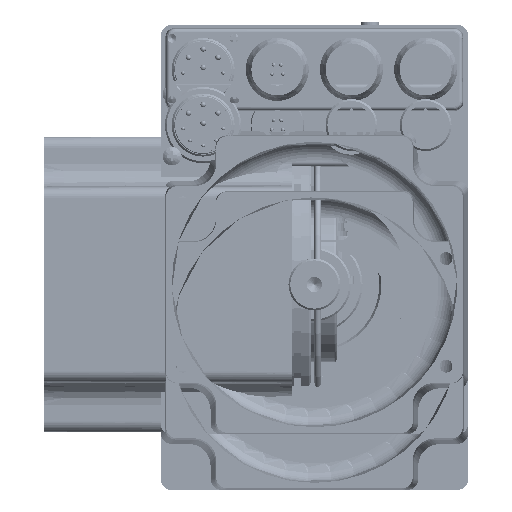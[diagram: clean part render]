
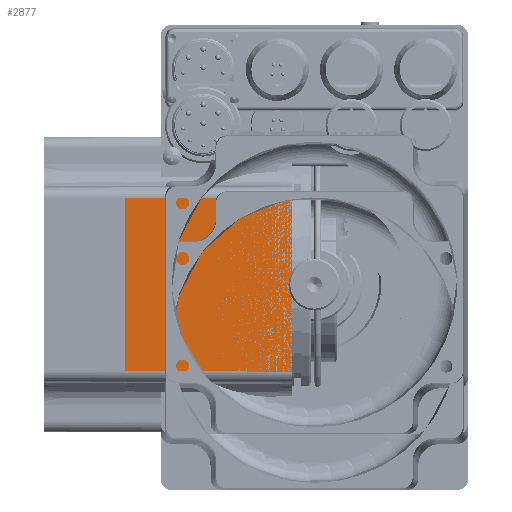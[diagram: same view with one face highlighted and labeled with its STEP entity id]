
A CAD part, front view. The second image highlights one B-rep face of the part: STEP entity #2877.
In plain terms, the highlighted planar face has unit normal (-0.003, -1, 0).
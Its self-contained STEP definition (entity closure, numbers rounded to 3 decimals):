
#2877 = ADVANCED_FACE( '', ( #7269 ), #7270, .T. );
#7269 = FACE_OUTER_BOUND( '', #16677, .T. );
#7270 = PLANE( '', #16678 );
#16677 = EDGE_LOOP( '', ( #31626, #31627, #31628, #31629 ) );
#16678 = AXIS2_PLACEMENT_3D( '', #31630, #31631, #31632 );
#31626 = ORIENTED_EDGE( '', *, *, #42393, .T. );
#31627 = ORIENTED_EDGE( '', *, *, #42394, .T. );
#31628 = ORIENTED_EDGE( '', *, *, #42218, .T. );
#31629 = ORIENTED_EDGE( '', *, *, #41488, .T. );
#31630 = CARTESIAN_POINT( '', ( -5., -40., 0. ) );
#31631 = DIRECTION( '', ( -0.003, -1., 0. ) );
#31632 = DIRECTION( '', ( 1., -0.003, 0. ) );
#41488 = EDGE_CURVE( '', #47138, #47136, #47139, .T. );
#42218 = EDGE_CURVE( '', #48314, #47138, #48315, .T. );
#42393 = EDGE_CURVE( '', #47136, #48585, #48586, .T. );
#42394 = EDGE_CURVE( '', #48585, #48314, #48587, .T. );
#47136 = VERTEX_POINT( '', #61174 );
#47138 = VERTEX_POINT( '', #61176 );
#47139 = LINE( '', #61177, #61178 );
#48314 = VERTEX_POINT( '', #63247 );
#48315 = LINE( '', #63248, #63249 );
#48585 = VERTEX_POINT( '', #63867 );
#48586 = LINE( '', #63868, #63869 );
#48587 = LINE( '', #63870, #63871 );
#61174 = CARTESIAN_POINT( '', ( -51., -39.866, -23.366 ) );
#61176 = CARTESIAN_POINT( '', ( -51., -39.866, 23.366 ) );
#61177 = CARTESIAN_POINT( '', ( -51., -39.866, 0. ) );
#61178 = VECTOR( '', #71473, 1000. );
#63247 = CARTESIAN_POINT( '', ( -6., -39.997, 23.497 ) );
#63248 = CARTESIAN_POINT( '', ( -98.991, -39.727, 23.227 ) );
#63249 = VECTOR( '', #72534, 1000. );
#63867 = CARTESIAN_POINT( '', ( -6., -39.997, -23.497 ) );
#63868 = CARTESIAN_POINT( '', ( -4.991, -40., -23.5 ) );
#63869 = VECTOR( '', #72750, 1000. );
#63870 = CARTESIAN_POINT( '', ( -6., -39.997, 0. ) );
#63871 = VECTOR( '', #72751, 1000. );
#71473 = DIRECTION( '', ( 0., 0., -1. ) );
#72534 = DIRECTION( '', ( -1., 0.003, -0.003 ) );
#72750 = DIRECTION( '', ( 1., -0.003, -0.003 ) );
#72751 = DIRECTION( '', ( 0., 0., 1. ) );
